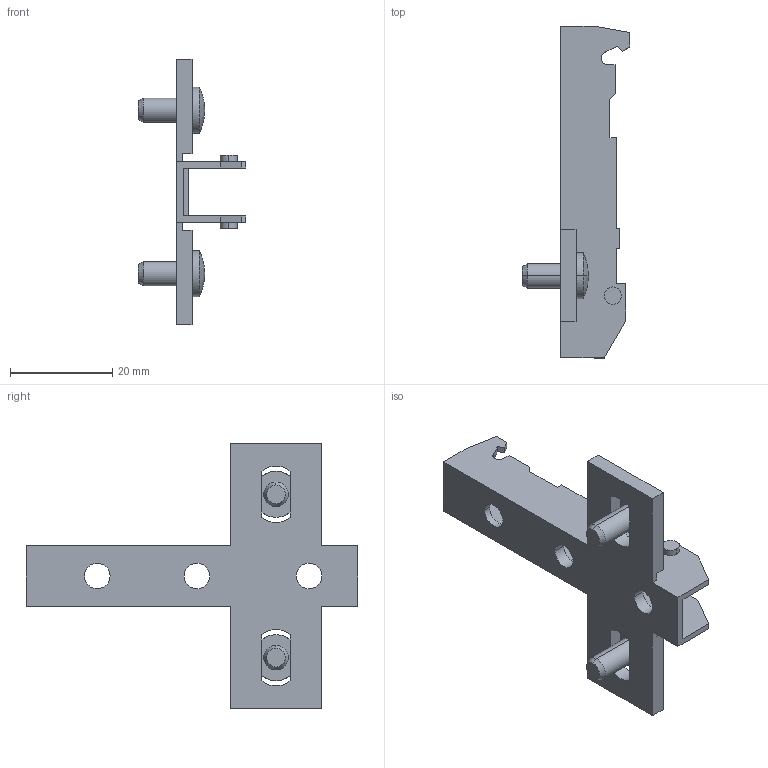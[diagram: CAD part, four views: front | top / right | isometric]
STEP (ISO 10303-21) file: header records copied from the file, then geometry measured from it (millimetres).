
FILE_DESCRIPTION (( 'STEP AP214' ), '1' );
FILE_NAME ('Eco Kreuzmontageplatte LR28_32_Euro_vorm. 10,5mm_H03.step', '2010-11-18T10:06:27', ( 'grass' ), ( '' ), 'SwSTEP 2.0', 'SolidWorks 2010', '' );
FILE_SCHEMA (( 'AUTOMOTIVE_DESIGN' ));
Length unit declared in the file: millimetre
Products named in the file (1): Eco Kreuzmontageplatte LR28_32_Euro_vorm. 10,5mm_H03
Bounding box: 21 x 65 x 52 mm (x, y, z)
Volume: 5105.7 mm3; surface area: 6594.9 mm2
Topology: 1 solids, 1 shells, 102 faces, 286 edges, 186 vertices
Faces by surface type: plane 70, cylinder 24, cone 4, sphere 4
Entity records: 3324 total; most frequent: CARTESIAN_POINT 575, ORIENTED_EDGE 572, DIRECTION 556, EDGE_CURVE 286, VECTOR 222, LINE 222, VERTEX_POINT 186, AXIS2_PLACEMENT_3D 167
